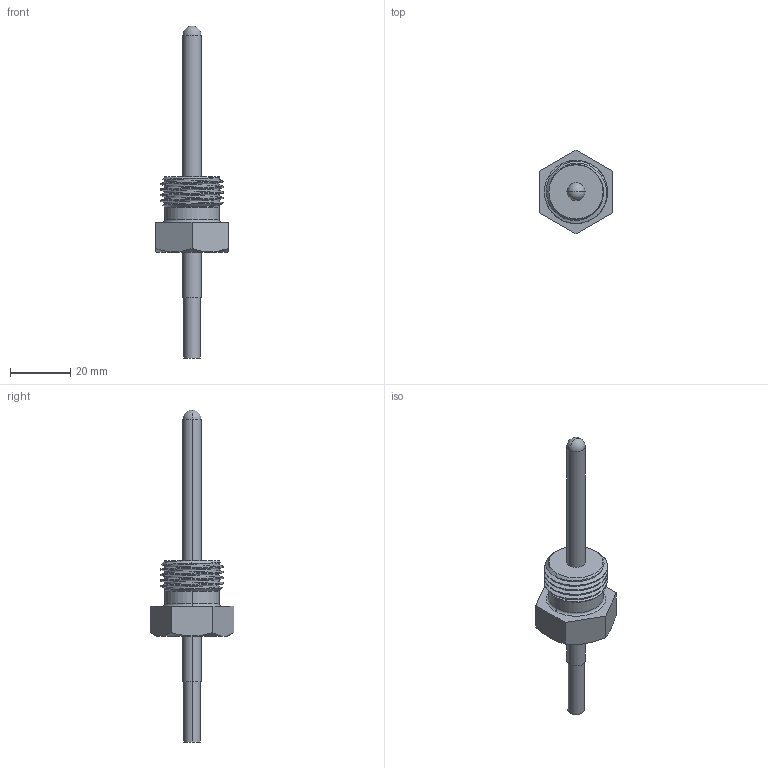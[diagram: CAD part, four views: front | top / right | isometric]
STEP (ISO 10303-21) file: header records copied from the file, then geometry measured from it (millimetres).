
FILE_DESCRIPTION (( 'STEP AP203' ), '1' );
FILE_NAME ('ESTF-PT1000-50-PVC-2.STEP', '2019-10-08T11:50:27', ( '' ), ( '' ), 'SwSTEP 2.0', 'SolidWorks 2016', '' );
FILE_SCHEMA (( 'CONFIG_CONTROL_DESIGN' ));
Length unit declared in the file: millimetre
Products named in the file (1): ESTF-PT1000-50-PVC-2
Bounding box: 24 x 27.71 x 110 mm (x, y, z)
Volume: 11378.7 mm3; surface area: 4836.4 mm2
Topology: 1 solids, 1 shells, 43 faces, 109 edges, 70 vertices
Faces by surface type: cylinder 17, plane 11, cone 8, bspline 3, sphere 2, torus 2
Entity records: 3237 total; most frequent: CARTESIAN_POINT 2228, ORIENTED_EDGE 210, DIRECTION 176, EDGE_CURVE 105, AXIS2_PLACEMENT_3D 70, VERTEX_POINT 68, EDGE_LOOP 47, ADVANCED_FACE 43
